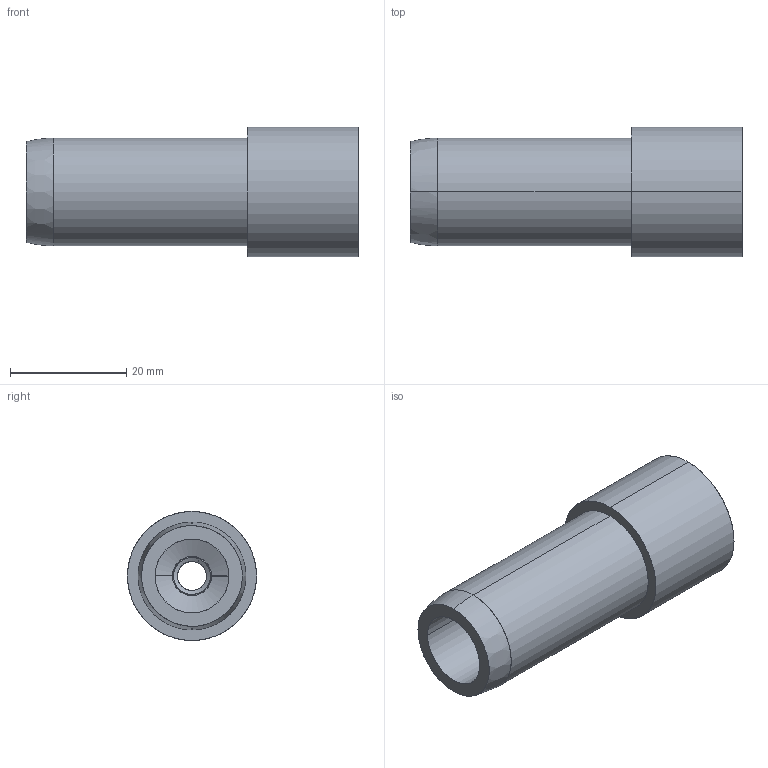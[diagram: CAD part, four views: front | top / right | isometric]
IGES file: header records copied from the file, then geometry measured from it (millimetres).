
Start section: SolidWorks IGES file using analytic representation for surfaces
Global section: file name: \\SERVER3\Design\_New Design Drive Folder List\_Design Vault\AAI\Modular Round Tube Connectors\Solidworks Models\STP Files\12202013\0.750 Inch Modular Connectors\DRP-002-0527-00.IGS; native system: SolidWorks 2013; preprocessor: SolidWorks 2013; author: tbraun; date: 131220.123428; units: inch
Bounding box: 57.15 x 22.23 x 22.23 mm (x, y, z)
Surface area: 6969.4 mm2 (no closed solid volume)
Topology: 0 solids, 0 shells, 25 faces, 292 edges, 292 vertices
Faces by surface type: bspline 15, revolution 10
